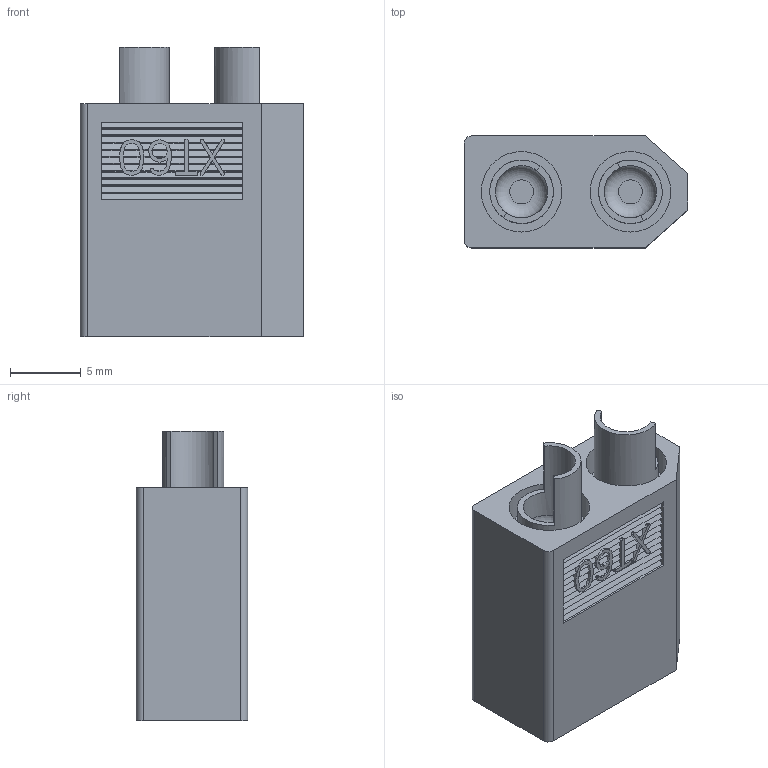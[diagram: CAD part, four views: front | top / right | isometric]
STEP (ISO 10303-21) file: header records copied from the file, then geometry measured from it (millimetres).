
FILE_DESCRIPTION(('FreeCAD Model'),'2;1');
FILE_NAME('Open CASCADE Shape Model','2023-05-06T18:44:57',('Author'),( ''),'Open CASCADE STEP processor 7.5','FreeCAD','Unknown');
FILE_SCHEMA(('AUTOMOTIVE_DESIGN { 1 0 10303 214 1 1 1 1 }'));
Length unit declared in the file: millimetre
Products named in the file (1): XT60 mom
Bounding box: 15.8 x 7.9 x 20.5 mm (x, y, z)
Volume: 1092.5 mm3; surface area: 2300.1 mm2
Topology: 3 solids, 3 shells, 636 faces, 1835 edges, 1224 vertices
Faces by surface type: plane 512, bspline 86, cylinder 28, torus 10
Full cylindrical faces by diameter (mm): 3.7 x2, 4.5 x4, 5.7 x4
Entity records: 28794 total; most frequent: CARTESIAN_POINT 6192, ORIENTED_EDGE 3630, DIRECTION 2762, EDGE_CURVE 1815, VECTOR 1520, LINE 1520, VERTEX_POINT 1216, EDGE_LOOP 671
